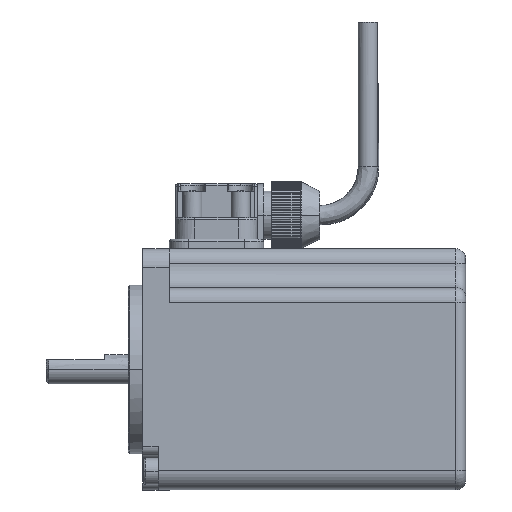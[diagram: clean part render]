
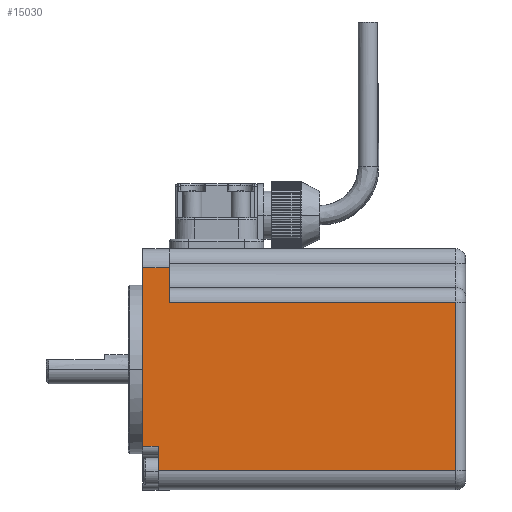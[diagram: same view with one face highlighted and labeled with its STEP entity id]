
A CAD part, top view. The second image highlights one B-rep face of the part: STEP entity #15030.
In plain terms, the highlighted planar face has unit normal (0, 0, 1).
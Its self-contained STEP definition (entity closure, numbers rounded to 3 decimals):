
#250 = LINE ( 'NONE', #16133, #12852 ) ;
#534 = DIRECTION ( 'NONE',  ( 0., -1., 0. ) ) ;
#1830 = VERTEX_POINT ( 'NONE', #13875 ) ;
#1831 = EDGE_CURVE ( 'NONE', #1830, #5867, #19482, .T. ) ;
#2652 = EDGE_CURVE ( 'NONE', #4686, #25414, #24033, .T. ) ;
#2709 = ORIENTED_EDGE ( 'NONE', *, *, #1831, .F. ) ;
#2942 = DIRECTION ( 'NONE',  ( -1., 0., 0. ) ) ;
#4179 = CARTESIAN_POINT ( 'NONE',  ( -45.285, -114.537, -23.554 ) ) ;
#4301 = VECTOR ( 'NONE', #534, 1000. ) ;
#4686 = VERTEX_POINT ( 'NONE', #25589 ) ;
#5867 = VERTEX_POINT ( 'NONE', #22764 ) ;
#6805 = CARTESIAN_POINT ( 'NONE',  ( -45.285, -75.416, -23.554 ) ) ;
#7162 = CARTESIAN_POINT ( 'NONE',  ( -50.785, -68.337, -23.554 ) ) ;
#7312 = EDGE_CURVE ( 'NONE', #19840, #4686, #22358, .T. ) ;
#7576 = CARTESIAN_POINT ( 'NONE',  ( 14.215, -75.416, -23.554 ) ) ;
#8032 = EDGE_CURVE ( 'NONE', #19840, #21172, #250, .T. ) ;
#8345 = EDGE_CURVE ( 'NONE', #15671, #21172, #12465, .T. ) ;
#9227 = CARTESIAN_POINT ( 'NONE',  ( -47.585, -114.537, -23.554 ) ) ;
#10647 = CARTESIAN_POINT ( 'NONE',  ( 14.215, -114.537, -23.554 ) ) ;
#10833 = ORIENTED_EDGE ( 'NONE', *, *, #8345, .F. ) ;
#10978 = LINE ( 'NONE', #10647, #4301 ) ;
#11730 = CARTESIAN_POINT ( 'NONE',  ( -47.585, -105.348, -23.554 ) ) ;
#11756 = CARTESIAN_POINT ( 'NONE',  ( -50.785, -105.348, -23.554 ) ) ;
#11788 = DIRECTION ( 'NONE',  ( 0., -1., 0. ) ) ;
#12465 = LINE ( 'NONE', #26123, #24562 ) ;
#12852 = VECTOR ( 'NONE', #11788, 1000. ) ;
#13875 = CARTESIAN_POINT ( 'NONE',  ( 14.215, -110.337, -23.554 ) ) ;
#14302 = VECTOR ( 'NONE', #16697, 1000. ) ;
#14426 = ORIENTED_EDGE ( 'NONE', *, *, #18536, .F. ) ;
#15030 = ADVANCED_FACE ( 'NONE', ( #21790 ), #20108, .F. ) ;
#15671 = VERTEX_POINT ( 'NONE', #11730 ) ;
#15770 = DIRECTION ( 'NONE',  ( 0., -1., 0. ) ) ;
#16102 = CARTESIAN_POINT ( 'NONE',  ( -57.285, -75.416, -23.554 ) ) ;
#16133 = CARTESIAN_POINT ( 'NONE',  ( -50.785, -59.337, -23.554 ) ) ;
#16462 = CARTESIAN_POINT ( 'NONE',  ( -57.285, -110.337, -23.554 ) ) ;
#16697 = DIRECTION ( 'NONE',  ( 0., 1., 0. ) ) ;
#17256 = ORIENTED_EDGE ( 'NONE', *, *, #25687, .F. ) ;
#17588 = VECTOR ( 'NONE', #15770, 1000. ) ;
#18517 = DIRECTION ( 'NONE',  ( 1., 0., 0. ) ) ;
#18536 = EDGE_CURVE ( 'NONE', #25414, #21316, #21642, .T. ) ;
#18614 = AXIS2_PLACEMENT_3D ( 'NONE', #20139, #20029, #19999 ) ;
#19482 = LINE ( 'NONE', #16462, #31777 ) ;
#19840 = VERTEX_POINT ( 'NONE', #7162 ) ;
#19999 = DIRECTION ( 'NONE',  ( 0., 1., 0. ) ) ;
#20029 = DIRECTION ( 'NONE',  ( 0., 0., -1. ) ) ;
#20108 = PLANE ( 'NONE',  #18614 ) ;
#20139 = CARTESIAN_POINT ( 'NONE',  ( -57.285, -114.537, -23.554 ) ) ;
#20248 = EDGE_CURVE ( 'NONE', #5867, #15671, #27175, .T. ) ;
#21172 = VERTEX_POINT ( 'NONE', #11756 ) ;
#21316 = VERTEX_POINT ( 'NONE', #7576 ) ;
#21584 = VECTOR ( 'NONE', #28330, 1000. ) ;
#21642 = LINE ( 'NONE', #16102, #27359 ) ;
#21790 = FACE_OUTER_BOUND ( 'NONE', #29588, .T. ) ;
#22358 = LINE ( 'NONE', #28441, #21584 ) ;
#22764 = CARTESIAN_POINT ( 'NONE',  ( -47.585, -110.337, -23.554 ) ) ;
#24033 = LINE ( 'NONE', #4179, #17588 ) ;
#24123 = ORIENTED_EDGE ( 'NONE', *, *, #20248, .F. ) ;
#24503 = ORIENTED_EDGE ( 'NONE', *, *, #8032, .T. ) ;
#24562 = VECTOR ( 'NONE', #26525, 1000. ) ;
#25414 = VERTEX_POINT ( 'NONE', #6805 ) ;
#25589 = CARTESIAN_POINT ( 'NONE',  ( -45.285, -68.337, -23.554 ) ) ;
#25687 = EDGE_CURVE ( 'NONE', #21316, #1830, #10978, .T. ) ;
#26123 = CARTESIAN_POINT ( 'NONE',  ( -47.585, -105.348, -23.554 ) ) ;
#26525 = DIRECTION ( 'NONE',  ( -1., 0., 0. ) ) ;
#27175 = LINE ( 'NONE', #9227, #14302 ) ;
#27359 = VECTOR ( 'NONE', #18517, 1000. ) ;
#28330 = DIRECTION ( 'NONE',  ( 1., 0., 0. ) ) ;
#28369 = ORIENTED_EDGE ( 'NONE', *, *, #2652, .F. ) ;
#28441 = CARTESIAN_POINT ( 'NONE',  ( -57.285, -68.337, -23.554 ) ) ;
#29588 = EDGE_LOOP ( 'NONE', ( #24123, #2709, #17256, #14426, #28369, #29648, #24503, #10833 ) ) ;
#29648 = ORIENTED_EDGE ( 'NONE', *, *, #7312, .F. ) ;
#31777 = VECTOR ( 'NONE', #2942, 1000. ) ;
